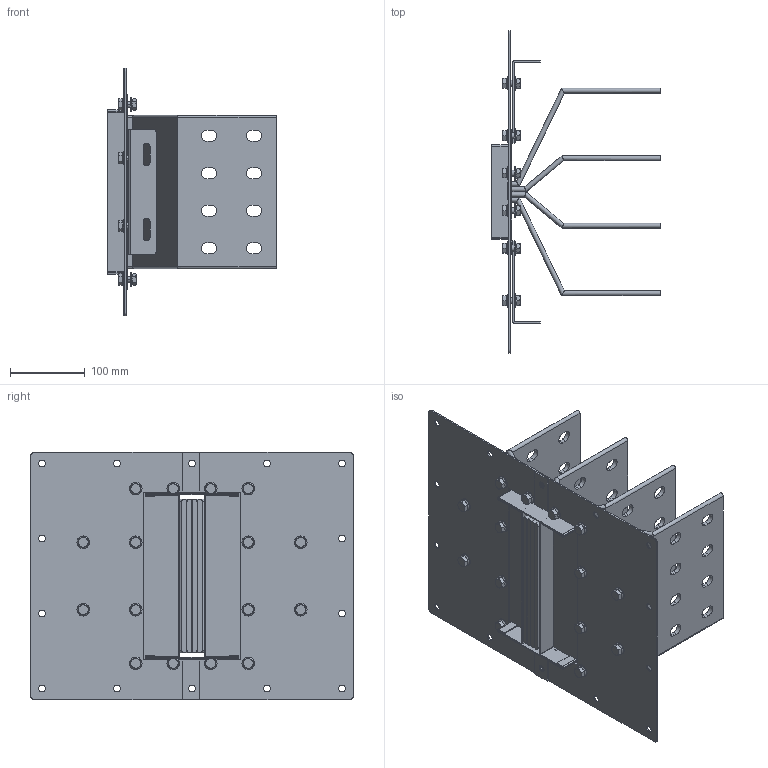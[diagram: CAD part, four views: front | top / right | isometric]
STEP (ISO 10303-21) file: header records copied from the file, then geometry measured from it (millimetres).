
FILE_DESCRIPTION(('CATIA V5 STEP','CAx-IF Rec.Pracs.--- Model Styling and Organization---1.5--- 2016-08-15','CAx-IF Rec.Pracs.---Supplemental Geometry---1.0---2011-11-01','CAx-IF Rec.Pracs.--- Composite Materials ---1.1---2010-07-15'),'2;1');
FILE_NAME('K:\COSCN 2011\32372311_RiduzioneSezioniBarre\03_Studio\__Modelli semplificati\XCP_UB semplificati per studi\XCP-HP_UB_4C_Pe_STD_Assieme\Al\XCP-HP_UB_4C_Pe_S_Assieme - 2000A Al\XCP-HP_UB_4C_Pe_S_Assieme - 2000A Al.stp','2025-05-12T09:37:10+00:00',('Utente Bticino'),('Bticino S.p.A.'),'CATIA Version 5-6 Release 2020 SP5','CATIA V5 STEP AP214 v2','none');
FILE_SCHEMA(('AUTOMOTIVE_DESIGN { 1 0 10303 214 1 1 1 1 }'));
Length unit declared in the file: millimetre
Products named in the file (7): XCP-HP_UB_4C_Pe_S_Assieme - 2000A Al; XCP-HP_UB_4C_Pe_S_PaccoBarre_2000A Al; XCP-HP_UB_4C_Pe_S_Lamiere_2000A Al; Viteria UB H130; Ass Vite+dado M8; Steel hex flanged SCREW M12x16; Steel hex flanged NUT M8
Assembly tree (21 placements, depth 4):
  XCP-HP_UB_4C_Pe_S_Assieme - 2000A Al
    XCP-HP_UB_4C_Pe_S_PaccoBarre_2000A Al
    XCP-HP_UB_4C_Pe_S_Lamiere_2000A Al
    Viteria UB H130
      Ass Vite+dado M8  x16
        Steel hex flanged SCREW M12x16
        Steel hex flanged NUT M8
Bounding box: 225 x 430 x 330 mm (x, y, z)
Volume: 1801459.1 mm3; surface area: 942205 mm2
Topology: 44 solids, 44 shells, 1204 faces, 2988 edges, 1904 vertices
Faces by surface type: plane 512, cylinder 404, cone 128, bspline 128, torus 32
Entity records: 16772 total; most frequent: CARTESIAN_POINT 3808, ORIENTED_EDGE 2796, DIRECTION 2184, EDGE_CURVE 1398, VERTEX_POINT 914, AXIS2_PLACEMENT_3D 910, VECTOR 848, LINE 848
